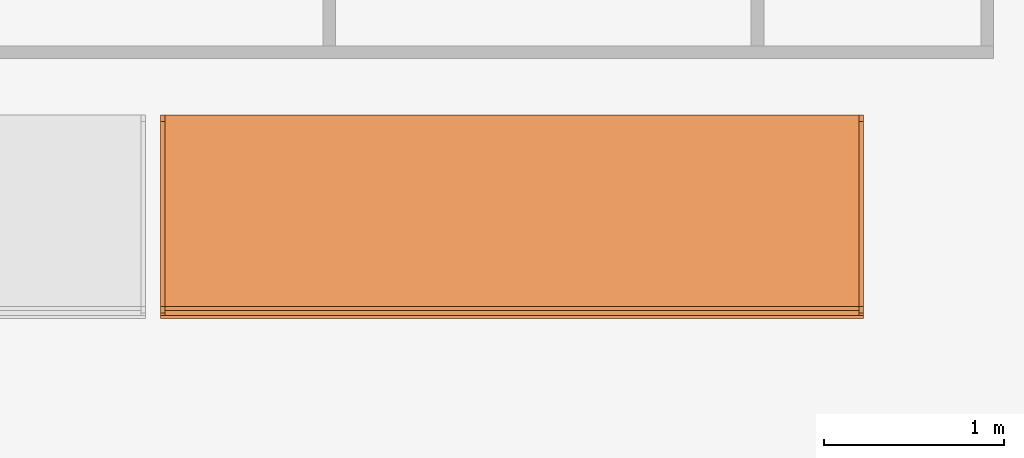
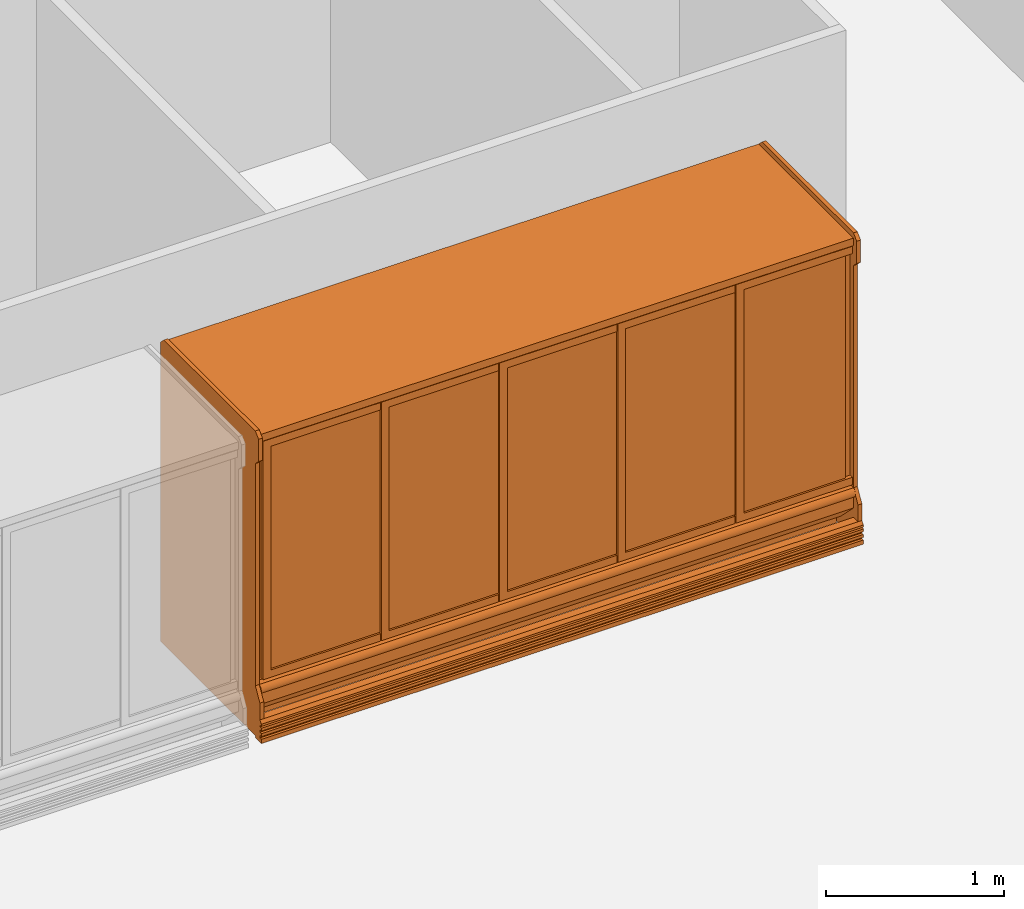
# One storey, part 11 of 11: 1 proxy.
"""IFC2X3 building model written with IfcOpenShell, lengths in metres."""

from ifc_helpers import new_model, entity, si_unit, converted_unit, derived_unit, direction, frame, frame_2d, origin, origin_2d_with_axis, place, context, subcontext, project, spatial, polyline, circle_curve, parameter, trimmed, segment, composite_curve, rectangle, outline, extrude, source, transform, mapped, material, material_list, type_object, type_shapes, element, save


model = new_model("IFC2X3")

# Units and contexts
model_context = context("Model", 3, precision=1e-05, world=origin(), true_north=direction((6.12303176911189e-17, 1.0)))
body_context = subcontext(model_context, "Body", "Model", "MODEL_VIEW")
ifc_project = project(units=[si_unit("LENGTHUNIT", "METRE"), si_unit("AREAUNIT", "SQUARE_METRE"), si_unit("VOLUMEUNIT", "CUBIC_METRE"), converted_unit("PLANEANGLEUNIT", "DEGREE", entity("IfcRatioMeasure", 0.0174532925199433), si_unit("PLANEANGLEUNIT", "RADIAN"), dimensions=[0, 0, 0, 0, 0, 0, 0]), si_unit("MASSUNIT", "GRAM", prefix="KILO"), derived_unit("MASSDENSITYUNIT", [(si_unit("MASSUNIT", "GRAM", prefix="KILO"), 1), (si_unit("LENGTHUNIT", "METRE"), -3)]), si_unit("TIMEUNIT", "SECOND"), si_unit("FREQUENCYUNIT", "HERTZ"), si_unit("THERMODYNAMICTEMPERATUREUNIT", "DEGREE_CELSIUS"), derived_unit("THERMALTRANSMITTANCEUNIT", [(si_unit("MASSUNIT", "GRAM", prefix="KILO"), 1), (si_unit("THERMODYNAMICTEMPERATUREUNIT", "KELVIN"), -1), (si_unit("TIMEUNIT", "SECOND"), -3)]), derived_unit("VOLUMETRICFLOWRATEUNIT", [(si_unit("LENGTHUNIT", "METRE"), 3), (si_unit("TIMEUNIT", "SECOND"), -1)]), si_unit("ELECTRICCURRENTUNIT", "AMPERE"), si_unit("ELECTRICVOLTAGEUNIT", "VOLT"), si_unit("POWERUNIT", "WATT"), si_unit("FORCEUNIT", "NEWTON", prefix="KILO"), si_unit("ILLUMINANCEUNIT", "LUX"), si_unit("LUMINOUSFLUXUNIT", "LUMEN"), si_unit("LUMINOUSINTENSITYUNIT", "CANDELA"), derived_unit("USERDEFINED", [(si_unit("MASSUNIT", "GRAM", prefix="KILO"), -1), (si_unit("LENGTHUNIT", "METRE"), -2), (si_unit("TIMEUNIT", "SECOND"), 3), (si_unit("LUMINOUSFLUXUNIT", "LUMEN"), 1)]), derived_unit("LINEARVELOCITYUNIT", [(si_unit("LENGTHUNIT", "METRE"), 1), (si_unit("TIMEUNIT", "SECOND"), -1)]), si_unit("PRESSUREUNIT", "PASCAL"), derived_unit("USERDEFINED", [(si_unit("LENGTHUNIT", "METRE"), -2), (si_unit("MASSUNIT", "GRAM", prefix="KILO"), 1), (si_unit("TIMEUNIT", "SECOND"), -2)])], contexts=[model_context])

# Site, building, storey
site_placement = place(None, origin())
site = spatial("IfcSite", under=ifc_project, at=site_placement, Name="Default", CompositionType="ELEMENT")
building_placement = place(site_placement, origin())
building = spatial("IfcBuilding", under=site, at=building_placement, CompositionType="ELEMENT")
storey_placement = place(building_placement, frame((0.0, 0.0, 1.49233632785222)))
storey = spatial("IfcBuildingStorey", under=building, at=storey_placement, Name="Niveau 0", CompositionType="ELEMENT", Elevation=1.49233632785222)

# Proxy
ifc_material_1 = material(Name="Métal - Chrome")
ifc_material_2 = material(Name="Verre")
ifc_material_3 = material(Name="Peinture - Blanc")
ifc_material_4 = material(Name="Peinture - Gris foncé")
ifc_material_list_1 = material_list([ifc_material_1, ifc_material_2, ifc_material_3, ifc_material_4])
ifc_material_list_2 = material_list([ifc_material_1, ifc_material_2, ifc_material_3, ifc_material_4])
building_element_proxy_type = type_object("IfcBuildingElementProxyType", Name="Longueur 3910 mm", PredefinedType="NOTDEFINED", material=ifc_material_list_2)
shared_shape = source(origin(), body_context, "Body", "SweptSolid", [
    extrude(outline(polyline([(-0.3937, -0.819150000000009), (0.3683, -0.819150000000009), (0.3683, -0.768350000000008), (-0.3429, -0.768350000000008), (-0.3429, 0.768350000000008), (0.3683, 0.768350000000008), (0.3683, 0.819150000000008), (-0.3937, 0.819150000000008), (-0.3937, -0.819150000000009)])), frame((0.211931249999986, 0.0126999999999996, 1.18745000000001), z_axis=(0.0, 1.0, 0.0), x_axis=(1.0, 0.0, 0.0)), (0.0, 0.0, 1.0), 0.0253999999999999),
    extrude(outline(polyline([(-0.3937, -0.819150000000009), (0.3683, -0.819150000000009), (0.3683, -0.768350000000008), (-0.3429, -0.768350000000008), (-0.3429, 0.768350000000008), (0.3683, 0.768350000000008), (0.3683, 0.819150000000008), (-0.3937, 0.819150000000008), (-0.3937, -0.819150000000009)])), frame((-0.556418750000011, 0.0126999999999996, 1.18745000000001), z_axis=(0.0, 1.0, 0.0), x_axis=(1.0, 0.0, 0.0)), (0.0, 0.0, 1.0), 0.0253999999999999),
    extrude(outline(polyline([(-0.3937, -0.819150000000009), (0.3683, -0.819150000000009), (0.3683, -0.768350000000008), (-0.3429, -0.768350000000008), (-0.3429, 0.768350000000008), (0.3683, 0.768350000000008), (0.3683, 0.819150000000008), (-0.3937, 0.819150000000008), (-0.3937, -0.819150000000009)])), frame((-1.32476875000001, 0.0126999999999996, 1.18745000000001), z_axis=(0.0, 1.0, 0.0), x_axis=(1.0, 0.0, 0.0)), (0.0, 0.0, 1.0), 0.0253999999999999),
    extrude(outline(polyline([(-0.3937, -0.819150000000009), (0.3683, -0.819150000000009), (0.3683, -0.768350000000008), (-0.3429, -0.768350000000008), (-0.3429, 0.768350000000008), (0.3683, 0.768350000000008), (0.3683, 0.819150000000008), (-0.3937, 0.819150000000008), (-0.3937, -0.819150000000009)])), frame((-2.09311875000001, 0.0126999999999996, 1.18745000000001), z_axis=(0.0, 1.0, 0.0), x_axis=(1.0, 0.0, 0.0)), (0.0, 0.0, 1.0), 0.0253999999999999),
    extrude(outline(polyline([(-0.902820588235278, -0.201945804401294), (-0.902820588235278, -0.214645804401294), (0.82437941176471, -0.214645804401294), (0.82437941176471, -0.201945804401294), (0.608479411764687, -0.201945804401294), (0.608479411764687, -0.0898341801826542), (0.589429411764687, -0.070784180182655), (0.589429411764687, 0.303324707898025), (0.570379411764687, 0.312207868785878), (0.570379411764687, -0.201945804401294), (0.316379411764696, -0.201945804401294), (0.316379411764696, -0.0851023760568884), (0.297329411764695, -0.0660523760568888), (0.297329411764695, 0.303324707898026), (0.278279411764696, 0.312207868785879), (0.278279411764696, -0.201945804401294), (0.0242794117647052, -0.201945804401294), (0.0242794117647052, -0.0803705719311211), (0.00522941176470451, -0.0613205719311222), (0.00522941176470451, 0.391796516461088), (-0.0138205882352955, 0.40067967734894), (-0.0138205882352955, -0.201945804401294), (-0.267820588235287, -0.201945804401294), (-0.267820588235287, -0.0851023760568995), (-0.286870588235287, -0.0660523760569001), (-0.286870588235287, 0.391796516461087), (-0.305920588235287, 0.400679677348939), (-0.305920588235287, -0.201945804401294), (-0.559920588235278, -0.201945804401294), (-0.559920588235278, -0.0803705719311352), (-0.578970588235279, -0.0613205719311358), (-0.578970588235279, 0.387979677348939), (-0.598020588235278, 0.394954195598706), (-0.598020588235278, -0.201945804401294), (-0.902820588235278, -0.201945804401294)])), frame((-2.10542815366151, 0.69975419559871, 1.12917941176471), z_axis=(-1.0, 0.0, 0.0), x_axis=(0.0, 0.0, -1.0)), (0.0, 0.0, -1.0), 0.0119188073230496),
    extrude(outline(polyline([(-0.902820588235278, -0.201945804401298), (-0.902820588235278, -0.214645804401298), (0.82437941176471, -0.214645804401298), (0.82437941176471, -0.201945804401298), (0.608479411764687, -0.201945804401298), (0.608479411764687, -0.089834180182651), (0.589429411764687, -0.0707841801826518), (0.589429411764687, 0.303324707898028), (0.570379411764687, 0.312207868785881), (0.570379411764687, -0.201945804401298), (0.316379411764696, -0.201945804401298), (0.316379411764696, -0.0851023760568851), (0.297329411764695, -0.0660523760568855), (0.297329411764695, 0.303324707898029), (0.278279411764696, 0.312207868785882), (0.278279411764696, -0.201945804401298), (0.0242794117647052, -0.201945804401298), (0.0242794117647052, -0.0803705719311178), (0.00522941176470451, -0.0613205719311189), (0.00522941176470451, 0.391796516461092), (-0.0138205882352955, 0.400679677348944), (-0.0138205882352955, -0.201945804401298), (-0.267820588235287, -0.201945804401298), (-0.267820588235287, -0.0851023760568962), (-0.286870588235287, -0.0660523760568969), (-0.286870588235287, 0.39179651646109), (-0.305920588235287, 0.400679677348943), (-0.305920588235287, -0.201945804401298), (-0.559920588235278, -0.201945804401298), (-0.559920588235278, -0.0803705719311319), (-0.578970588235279, -0.0613205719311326), (-0.578970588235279, 0.387979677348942), (-0.598020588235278, 0.394954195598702), (-0.598020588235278, -0.201945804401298), (-0.902820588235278, -0.201945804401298)])), frame((-0.556028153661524, 0.699754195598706, 1.12917941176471), z_axis=(-1.0, 0.0, 0.0), x_axis=(0.0, 0.0, -1.0)), (0.0, 0.0, -1.0), 0.0119188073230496),
    extrude(outline(polyline([(-0.3937, -0.819150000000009), (0.3683, -0.819150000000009), (0.3683, -0.768350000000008), (-0.3429, -0.768350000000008), (-0.3429, 0.768350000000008), (0.3683, 0.768350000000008), (0.3683, 0.819150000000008), (-0.3937, 0.819150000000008), (-0.3937, -0.819150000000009)])), frame((-2.86146875, 0.0126999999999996, 1.18745000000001), z_axis=(0.0, 1.0, 0.0), x_axis=(1.0, 0.0, 0.0)), (0.0, 0.0, 1.0), 0.0253999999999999),
    extrude(rectangle(XDim=0.00634999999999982, YDim=2.20345000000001, at=frame_2d((-2.16840434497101e-18, 0.0), x_axis=(1.0, 0.0))), frame((-0.565943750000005, 0.0285749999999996, 0.419100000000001), z_axis=(0.0, 0.0, 1.0), x_axis=(0.0, 1.0, 0.0)), (0.0, 0.0, 1.0), 1.53670000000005),
    extrude(rectangle(XDim=0.00634999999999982, YDim=1.49224999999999, at=frame_2d((-2.16840434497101e-18, -1.11022302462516e-16), x_axis=(1.0, 0.0))), frame((-2.46459375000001, 0.0285749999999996, 0.4191), z_axis=(0.0, 0.0, 1.0), x_axis=(0.0, 1.0, 0.0)), (0.0, 0.0, 1.0), 1.53669999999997),
    extrude(outline(polyline([(-0.88265, -1.9304), (0.882649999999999, -1.9304), (0.88265, 1.9304), (-0.882649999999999, 1.9304), (-0.88265, -1.9304)]), holes=[polyline([(-0.806450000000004, -0.0190500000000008), (-0.806450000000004, 1.8923), (0.80645, 1.8923), (0.80645, -0.0190500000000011), (0.806449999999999, -1.8923), (-0.806450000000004, -1.8923), (-0.806450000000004, -0.0190500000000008)])]), frame((-1.35651875, 0.0380999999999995, 1.18745), z_axis=(0.0, 1.0, 0.0), x_axis=(0.0, 0.0, -1.0)), (0.0, 0.0, 1.0), 0.0381),
    extrude(outline(composite_curve([segment(trimmed(circle_curve(frame_2d((-0.0095885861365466, 0.0), x_axis=(1.0, 0.0)), 0.0327139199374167), [parameter(287.043889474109)], [parameter(72.9561105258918)], True, "PARAMETER"), True, "CONTINUOUS"), segment(polyline([(0.0, 0.0312771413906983), (0.0, -0.0312771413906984)]), True, "CONTINUOUS")], self_intersect=False)), frame((-3.28691875, 0.0, 0.324322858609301), z_axis=(1.0, 0.0, 0.0), x_axis=(0.0, -1.0, 0.0)), (0.0, 0.0, 1.0), 3.8608),
    extrude(outline(polyline([(-0.058322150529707, -0.045007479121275), (-0.0317412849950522, -0.045007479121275), (-0.0206789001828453, -0.0360006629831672), (-0.0312750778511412, -0.0229861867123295), (-0.0214265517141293, -0.0149676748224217), (-0.0108303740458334, -0.0279821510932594), (0.00394241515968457, -0.0159543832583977), (-0.00665376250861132, -0.00293990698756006), (0.00811902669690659, 0.0090878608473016), (0.0187152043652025, -0.00392661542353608), (0.0334879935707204, 0.00810115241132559), (0.0228918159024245, 0.0211156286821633), (0.0376646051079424, 0.0331433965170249), (0.0482607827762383, 0.0201289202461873), (0.0704563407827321, 0.0382001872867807), (0.0277861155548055, 0.0906087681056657), (-0.0903961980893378, -0.00561337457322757), (-0.058322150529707, -0.045007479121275)])), frame((-3.31231875, -0.052721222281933, 0.0787558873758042), z_axis=(1.0, 0.0, 0.0), x_axis=(0.0, -0.631378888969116, -0.775474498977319)), (0.0, 0.0, 1.0), 3.9116),
    extrude(outline(polyline([(-0.78162589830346, -1.01392662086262), (0.249253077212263, -1.01392662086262), (0.285174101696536, -0.978005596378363), (0.285174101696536, -0.825605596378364), (0.249253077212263, -0.789684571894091), (0.249253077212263, 0.736494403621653), (0.300053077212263, 0.824482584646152), (0.300053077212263, 0.939694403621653), (0.249253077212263, 0.939694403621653), (0.249253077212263, 1.07939440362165), (-0.817546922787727, 1.07939440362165), (-0.817546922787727, -0.978005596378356), (-0.78162589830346, -1.01392662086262)])), frame((0.573881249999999, 0.249253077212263, 1.09209440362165), z_axis=(1.0, 0.0, 0.0), x_axis=(0.0, -1.0, 0.0)), (0.0, 0.0, 1.0), 0.0253999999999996),
    extrude(outline(polyline([(-0.78162589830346, -1.01392662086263), (0.249253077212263, -1.01392662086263), (0.285174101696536, -0.97800559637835), (0.285174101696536, -0.825605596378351), (0.249253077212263, -0.789684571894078), (0.249253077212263, 0.736494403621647), (0.300053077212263, 0.824482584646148), (0.300053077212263, 0.939694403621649), (0.249253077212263, 0.939694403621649), (0.249253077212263, 1.07939440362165), (-0.817546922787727, 1.07939440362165), (-0.817546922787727, -0.97800559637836), (-0.78162589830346, -1.01392662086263)])), frame((-3.31231875, 0.249253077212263, 1.09209440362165), z_axis=(1.0, 0.0, 0.0), x_axis=(0.0, -1.0, 0.0)), (0.0, 0.0, 1.0), 0.0253999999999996),
    extrude(rectangle(XDim=3.8354, YDim=0.6096, at=origin_2d_with_axis()), frame((-1.35651875, 0.596900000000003, 0.558800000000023)), (0.0, 0.0, 1.0), 0.009525),
    extrude(rectangle(XDim=3.8354, YDim=0.6096, at=origin_2d_with_axis()), frame((-1.35651875, 0.596900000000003, 1.72719999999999)), (0.0, 0.0, 1.0), 0.009525),
    extrude(rectangle(XDim=3.8354, YDim=0.6096, at=origin_2d_with_axis()), frame((-1.35651875, 0.596900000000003, 1.4351)), (0.0, 0.0, 1.0), 0.009525),
    extrude(rectangle(XDim=3.8354, YDim=0.6096, at=frame_2d((0.0, -5.55111512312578e-17), x_axis=(1.0, 0.0))), frame((-1.35651875, 0.596900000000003, 1.14300000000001)), (0.0, 0.0, 1.0), 0.009525),
    extrude(rectangle(XDim=3.8354, YDim=0.6096, at=frame_2d((0.0, -5.55111512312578e-17), x_axis=(1.0, 0.0))), frame((-1.35651875, 0.596900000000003, 0.850900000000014)), (0.0, 0.0, 1.0), 0.009525),
    extrude(outline(polyline([(-0.902820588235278, -0.198746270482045), (-0.902820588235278, -0.211446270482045), (0.82437941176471, -0.211446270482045), (0.82437941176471, -0.198746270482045), (0.608479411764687, -0.198746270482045), (0.608479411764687, -0.0923601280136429), (0.589429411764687, -0.0733101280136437), (0.589429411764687, 0.300798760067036), (0.570379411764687, 0.309681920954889), (0.570379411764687, -0.198746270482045), (0.316379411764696, -0.198746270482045), (0.316379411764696, -0.0876283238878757), (0.297329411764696, -0.0685783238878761), (0.297329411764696, 0.300798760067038), (0.278279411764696, 0.309681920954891), (0.278279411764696, -0.198746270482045), (0.0242794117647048, -0.198746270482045), (0.0242794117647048, -0.082896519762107), (0.0052294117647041, -0.0638465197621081), (0.0052294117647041, 0.389270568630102), (-0.0138205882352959, 0.398153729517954), (-0.0138205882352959, -0.198746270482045), (-0.267820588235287, -0.198746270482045), (-0.267820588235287, -0.0876283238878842), (-0.286870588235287, -0.0685783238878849), (-0.286870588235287, 0.389270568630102), (-0.305920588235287, 0.398153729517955), (-0.305920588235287, -0.198746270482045), (-0.559920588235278, -0.198746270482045), (-0.559920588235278, -0.0828965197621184), (-0.578970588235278, -0.0638465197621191), (-0.578970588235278, 0.385453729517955), (-0.598020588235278, 0.398153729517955), (-0.598020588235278, -0.198746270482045), (-0.902820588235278, -0.198746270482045)])), frame((-1.36247815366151, 0.702953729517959, 1.12917941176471), z_axis=(-1.0, 0.0, 0.0), x_axis=(0.0, 0.0, -1.0)), (0.0, 0.0, -1.0), 0.0119188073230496),
    extrude(outline(polyline([(-0.902820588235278, -0.198746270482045), (-0.902820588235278, -0.211446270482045), (0.82437941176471, -0.211446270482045), (0.82437941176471, -0.198746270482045), (0.608479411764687, -0.198746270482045), (0.608479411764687, -0.0923601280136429), (0.589429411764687, -0.0733101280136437), (0.589429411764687, 0.300798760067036), (0.570379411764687, 0.309681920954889), (0.570379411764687, -0.198746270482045), (0.316379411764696, -0.198746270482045), (0.316379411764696, -0.0876283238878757), (0.297329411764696, -0.0685783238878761), (0.297329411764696, 0.300798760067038), (0.278279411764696, 0.309681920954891), (0.278279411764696, -0.198746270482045), (0.0242794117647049, -0.198746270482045), (0.0242794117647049, -0.082896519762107), (0.00522941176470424, -0.0638465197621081), (0.00522941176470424, 0.389270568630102), (-0.0138205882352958, 0.398153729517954), (-0.0138205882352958, -0.198746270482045), (-0.267820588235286, -0.198746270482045), (-0.267820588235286, -0.0876283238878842), (-0.286870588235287, -0.0685783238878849), (-0.286870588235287, 0.389270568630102), (-0.305920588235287, 0.398153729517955), (-0.305920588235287, -0.198746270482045), (-0.559920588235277, -0.198746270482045), (-0.559920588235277, -0.0828965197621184), (-0.578970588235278, -0.0638465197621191), (-0.578970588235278, 0.385453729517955), (-0.598020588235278, 0.398153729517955), (-0.598020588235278, -0.198746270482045), (-0.902820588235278, -0.198746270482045)])), frame((0.548481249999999, 0.702953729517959, 1.12917941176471), z_axis=(-1.0, 0.0, 0.0), x_axis=(0.0, 0.0, -1.0)), (0.0, 0.0, -1.0), 0.0126999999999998),
    extrude(outline(polyline([(-0.902820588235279, -0.198746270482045), (-0.902820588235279, -0.211446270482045), (0.824379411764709, -0.211446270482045), (0.824379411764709, -0.198746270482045), (0.608479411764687, -0.198746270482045), (0.608479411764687, -0.0923601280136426), (0.589429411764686, -0.0733101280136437), (0.589429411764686, 0.300798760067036), (0.570379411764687, 0.309681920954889), (0.570379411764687, -0.198746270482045), (0.316379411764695, -0.198746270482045), (0.316379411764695, -0.0876283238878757), (0.297329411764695, -0.0685783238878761), (0.297329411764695, 0.300798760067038), (0.278279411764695, 0.309681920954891), (0.278279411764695, -0.198746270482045), (0.0242794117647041, -0.198746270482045), (0.0242794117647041, -0.082896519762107), (0.00522941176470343, -0.0638465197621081), (0.00522941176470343, 0.389270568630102), (-0.0138205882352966, 0.398153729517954), (-0.0138205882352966, -0.198746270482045), (-0.267820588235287, -0.198746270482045), (-0.267820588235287, -0.0876283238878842), (-0.286870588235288, -0.0685783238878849), (-0.286870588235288, 0.389270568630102), (-0.305920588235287, 0.398153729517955), (-0.305920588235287, -0.198746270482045), (-0.559920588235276, -0.198746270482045), (-0.559920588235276, -0.0828965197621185), (-0.578970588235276, -0.0638465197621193), (-0.578970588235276, 0.385453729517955), (-0.598020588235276, 0.398153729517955), (-0.598020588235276, -0.198746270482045), (-0.902820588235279, -0.198746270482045)])), frame((-3.27421875, 0.702953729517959, 1.12917941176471), z_axis=(-1.0, 0.0, 0.0), x_axis=(0.0, 0.0, -1.0)), (0.0, 0.0, -1.0), 0.0127000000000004),
    extrude(outline(polyline([(-0.99836485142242, -0.344904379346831), (-0.947564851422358, -0.344904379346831), (-0.947564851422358, -0.192504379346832), (-0.960264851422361, -0.192504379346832), (-0.960264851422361, 0.569495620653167), (0.766935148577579, 0.569495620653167), (0.766935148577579, -0.306804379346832), (0.716135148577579, -0.306804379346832), (0.716135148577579, -0.344904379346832), (0.855178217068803, -0.344904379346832), (0.995535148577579, -0.204547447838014), (0.995535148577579, 0.721895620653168), (-0.99836485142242, 0.721895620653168), (-0.99836485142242, -0.344904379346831)])), frame((-3.28691875, 0.344904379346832, 1.07173514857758), z_axis=(1.0, 0.0, 0.0), x_axis=(0.0, 0.0, -1.0)), (0.0, 0.0, 1.0), 3.8608),
    extrude(rectangle(XDim=3.8608, YDim=0.85725, at=frame_2d((-3.33066907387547e-16, -5.55111512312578e-17), x_axis=(1.0, 0.0))), frame((-1.35651875, 0.619125, 0.0), z_axis=(0.0, 0.0, 1.0), x_axis=(-1.0, 0.0, 0.0)), (0.0, 0.0, 1.0), 0.0762),
])
type_shapes(building_element_proxy_type, [shared_shape])
proxy_placement = place(storey_placement, frame((30.544998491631, -1.06468697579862, 0.0)))
element("IfcBuildingElementProxy", 1, at=proxy_placement, inside=storey, type_object=building_element_proxy_type, material=ifc_material_list_1, Name="Congélateur - Vertical cinq portes:Longueur 3910 mm", ObjectType="Congélateur - Vertical cinq portes:Longueur 3910 mm", context=body_context, shape_type="MappedRepresentation", body=[
    mapped(shared_shape, transform((0.0, 0.0, 0.0), scale=1.0)),
])

save(model, "model.ifc")
